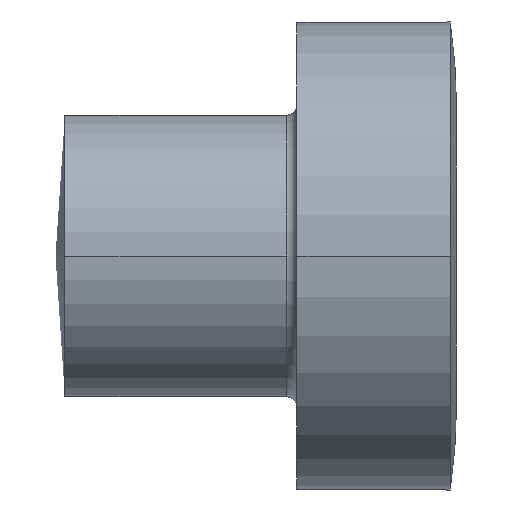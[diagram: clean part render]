
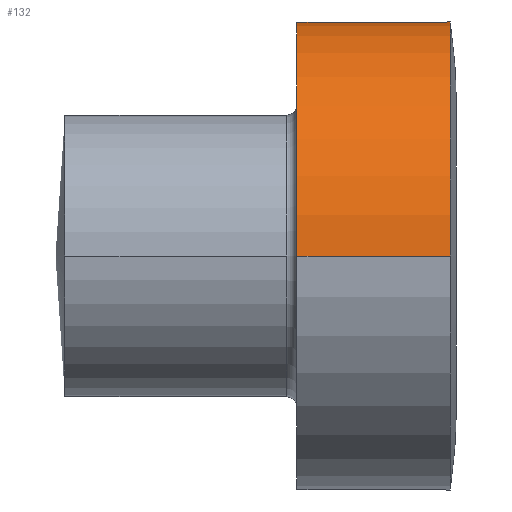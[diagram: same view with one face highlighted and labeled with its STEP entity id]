
A CAD part, left-side view. The second image highlights one B-rep face of the part: STEP entity #132.
In plain terms, the highlighted cylindrical face has radius 22 mm (diameter 44 mm), a partial arc.
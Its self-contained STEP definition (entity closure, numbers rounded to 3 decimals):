
#132=ADVANCED_FACE('',(#196),#197,.T.);
#196=FACE_OUTER_BOUND('',#344,.T.);
#197=CYLINDRICAL_SURFACE('',#345,22.0);
#344=EDGE_LOOP('',(#544,#545,#546,#547,#548,#549,#550));
#345=AXIS2_PLACEMENT_3D('',#551,#552,#553);
#544=ORIENTED_EDGE('',*,*,#908,.F.);
#545=ORIENTED_EDGE('',*,*,#909,.T.);
#546=ORIENTED_EDGE('',*,*,#910,.F.);
#547=ORIENTED_EDGE('',*,*,#911,.F.);
#548=ORIENTED_EDGE('',*,*,#869,.F.);
#549=ORIENTED_EDGE('',*,*,#912,.F.);
#550=ORIENTED_EDGE('',*,*,#895,.T.);
#551=CARTESIAN_POINT('',(0.0,7.792,0.0));
#552=DIRECTION('',(0.0,-1.0,0.0));
#553=DIRECTION('',(1.0,0.0,0.0));
#869=EDGE_CURVE('',#990,#982,#992,.T.);
#895=EDGE_CURVE('',#1043,#1040,#1044,.T.);
#908=EDGE_CURVE('',#1067,#1040,#1068,.T.);
#909=EDGE_CURVE('',#1067,#1069,#1070,.T.);
#910=EDGE_CURVE('',#1071,#1069,#1072,.T.);
#911=EDGE_CURVE('',#982,#1071,#1073,.T.);
#912=EDGE_CURVE('',#1043,#990,#1074,.T.);
#982=VERTEX_POINT('',#1173);
#990=VERTEX_POINT('',#1199);
#992=CIRCLE('',#1201,22.0);
#1040=VERTEX_POINT('',#1261);
#1043=VERTEX_POINT('',#1265);
#1044=B_SPLINE_CURVE_WITH_KNOTS('',3,(#1266,#1267,#1268,#1269,#1270,#1271,#1272,#1273,#1274,#1275,#1276,#1277,#1278,#1279,#1280,#1281,#1282,#1283,#1284),.UNSPECIFIED.,.F.,.F.,(4,2,2,2,3,2,2,2,4),(1.699,1.84,1.982,2.123,2.265,2.406,2.548,2.69,2.831),.UNSPECIFIED.);
#1067=VERTEX_POINT('',#1310);
#1068=LINE('',#1311,#1312);
#1069=VERTEX_POINT('',#1313);
#1070=CIRCLE('',#1314,22.0);
#1071=VERTEX_POINT('',#1315);
#1072=LINE('',#1316,#1317);
#1073=CIRCLE('',#1318,22.0);
#1074=LINE('',#1319,#1320);
#1173=CARTESIAN_POINT('',(0.,0.585,22.));
#1199=CARTESIAN_POINT('',(22.0,0.585,0.0));
#1201=AXIS2_PLACEMENT_3D('',#1468,#1469,#1470);
#1261=CARTESIAN_POINT('',(22.0,11.25,0.0));
#1265=CARTESIAN_POINT('',(22.0,3.75,0.0));
#1266=CARTESIAN_POINT('',(22.0,3.75,0.));
#1267=CARTESIAN_POINT('',(22.0,3.75,0.472));
#1268=CARTESIAN_POINT('',(21.983,3.844,0.975));
#1269=CARTESIAN_POINT('',(21.923,4.227,1.898));
#1270=CARTESIAN_POINT('',(21.88,4.516,2.319));
#1271=CARTESIAN_POINT('',(21.799,5.181,2.984));
#1272=CARTESIAN_POINT('',(21.756,5.602,3.273));
#1273=CARTESIAN_POINT('',(21.695,6.525,3.656));
#1274=CARTESIAN_POINT('',(21.678,7.028,3.75));
#1275=CARTESIAN_POINT('',(21.678,7.5,3.75));
#1276=CARTESIAN_POINT('',(21.678,7.972,3.75));
#1277=CARTESIAN_POINT('',(21.695,8.475,3.656));
#1278=CARTESIAN_POINT('',(21.756,9.398,3.273));
#1279=CARTESIAN_POINT('',(21.799,9.819,2.984));
#1280=CARTESIAN_POINT('',(21.88,10.484,2.319));
#1281=CARTESIAN_POINT('',(21.923,10.773,1.898));
#1282=CARTESIAN_POINT('',(21.983,11.156,0.975));
#1283=CARTESIAN_POINT('',(22.0,11.25,0.472));
#1284=CARTESIAN_POINT('',(22.0,11.25,0.));
#1310=CARTESIAN_POINT('',(22.0,15.0,0.0));
#1311=CARTESIAN_POINT('',(22.0,7.792,0.));
#1312=VECTOR('',#1550,1.0);
#1313=CARTESIAN_POINT('',(-22.0,15.0,0.));
#1314=AXIS2_PLACEMENT_3D('',#1551,#1552,#1553);
#1315=CARTESIAN_POINT('',(-22.0,0.585,0.));
#1316=CARTESIAN_POINT('',(-22.0,7.792,0.));
#1317=VECTOR('',#1554,1.0);
#1318=AXIS2_PLACEMENT_3D('',#1555,#1556,#1557);
#1319=CARTESIAN_POINT('',(22.0,7.792,0.));
#1320=VECTOR('',#1558,1.0);
#1468=CARTESIAN_POINT('',(0.0,0.585,0.0));
#1469=DIRECTION('',(0.0,-1.0,0.0));
#1470=DIRECTION('',(1.0,0.0,0.0));
#1550=DIRECTION('',(0.0,-1.0,0.0));
#1551=CARTESIAN_POINT('',(0.0,15.0,0.0));
#1552=DIRECTION('',(0.0,-1.0,0.0));
#1553=DIRECTION('',(1.0,0.0,0.0));
#1554=DIRECTION('',(0.0,1.0,0.0));
#1555=CARTESIAN_POINT('',(0.0,0.585,0.0));
#1556=DIRECTION('',(0.0,-1.0,0.0));
#1557=DIRECTION('',(1.0,0.0,0.0));
#1558=DIRECTION('',(0.0,-1.0,0.0));
